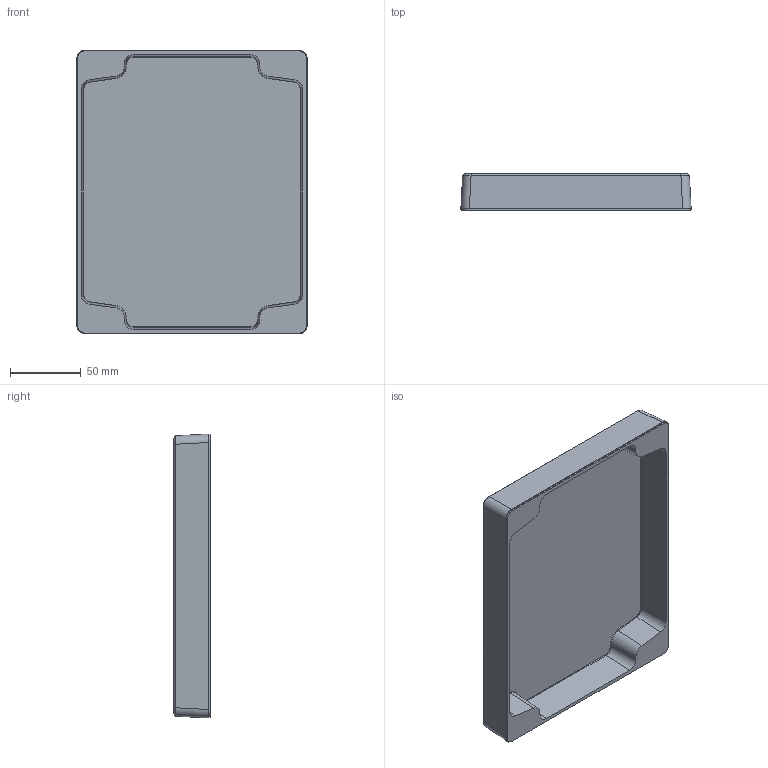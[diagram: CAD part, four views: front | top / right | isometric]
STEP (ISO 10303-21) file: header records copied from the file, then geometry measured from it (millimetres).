
FILE_DESCRIPTION (( 'STEP AP214' ), '1' );
FILE_NAME ('FIBOX TEMPO 2016 Cover.STEP', '2006-11-28T14:18:44', ( 'JuhaniH' ), ( 'Fibox Oy' ), 'SwSTEP 2.0', 'SolidWorks 2006233', '' );
FILE_SCHEMA (( 'AUTOMOTIVE_DESIGN' ));
Length unit declared in the file: millimetre
Products named in the file (1): FIBOX TEMPO 2016 Cover
Bounding box: 163.1 x 26 x 201.1 mm (x, y, z)
Volume: 161127.8 mm3; surface area: 98998.3 mm2
Topology: 1 solids, 1 shells, 88 faces, 208 edges, 128 vertices
Faces by surface type: plane 32, cone 20, cylinder 16, torus 12, bspline 8
Entity records: 2911 total; most frequent: CARTESIAN_POINT 885, DIRECTION 418, ORIENTED_EDGE 416, EDGE_CURVE 208, AXIS2_PLACEMENT_3D 157, VERTEX_POINT 128, VECTOR 104, LINE 104
